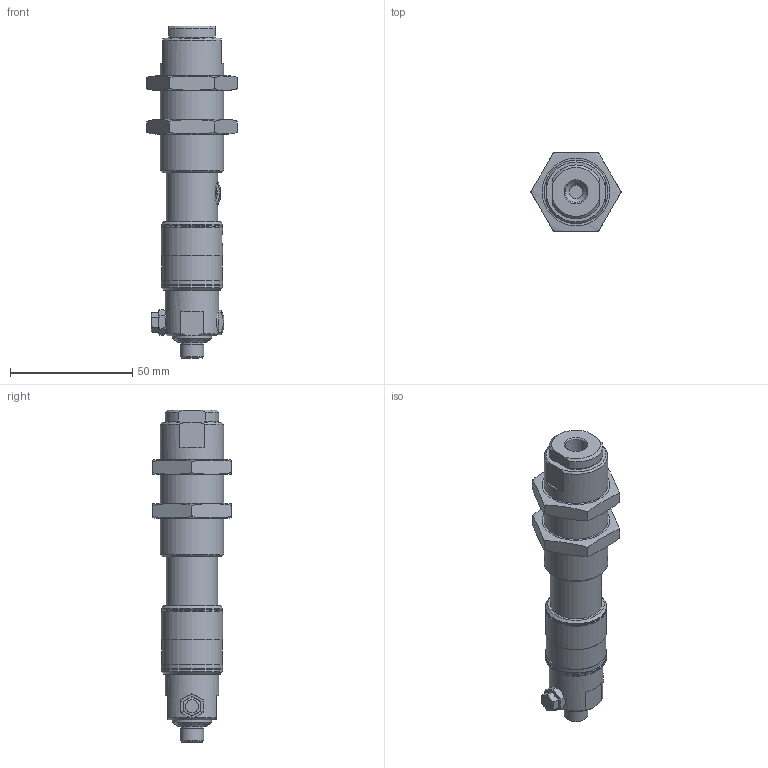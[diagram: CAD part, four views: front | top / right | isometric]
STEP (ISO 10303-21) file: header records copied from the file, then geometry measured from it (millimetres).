
FILE_DESCRIPTION( ( 'Unknown' ), '1' );
FILE_NAME( 'C:/Documents and Settings/Administrator/官帕 拳搁/vacuum speeder/VCS202C-18M20.stp', 'Unknown', ( 'Unknown' ), ( 'Unknown' ), 'PSStep 10.0', 'Unknown', ' ' );
FILE_SCHEMA( ( 'AUTOMOTIVE_DESIGN { 1 0 10303 214 1 1 1 1 }' ) );
Length unit declared in the file: millimetre
Products named in the file (5): Assem1; 2_1; Exhaust Plug-VCS-M7_0; Plug-VCS-M7M5F.log; Plug-M5B
Bounding box: 36.95 x 32 x 135.8 mm (x, y, z)
Volume: 117286.9 mm3; surface area: 36302.7 mm2
Topology: 8 solids, 8 shells, 334 faces, 722 edges, 458 vertices
Faces by surface type: plane 156, cylinder 78, cone 70, torus 20, revolution 10
Full cylindrical faces by diameter (mm): 1.8 x2, 4.134 x2, 4.2 x2, 4.3 x2, 5 x6, 5.9 x4, 6 x2, 6.1 x2, 6.2 x2, 6.5 x4, 7 x4, 8 x2, 8.3 x2, 8.8 x4, 9.8 x2, 10 x2, 16 x2, 18 x2, 21 x2, 22 x2, 23 x2, 24.6 x2, 25 x8, 26 x6
Entity records: 6442 total; most frequent: CARTESIAN_POINT 1782, DIRECTION 671, ORIENTED_EDGE 554, AXIS2_PLACEMENT_3D 299, EDGE_CURVE 277, EDGE_LOOP 270, FACE_OUTER_BOUND 215, VERTEX_POINT 213
